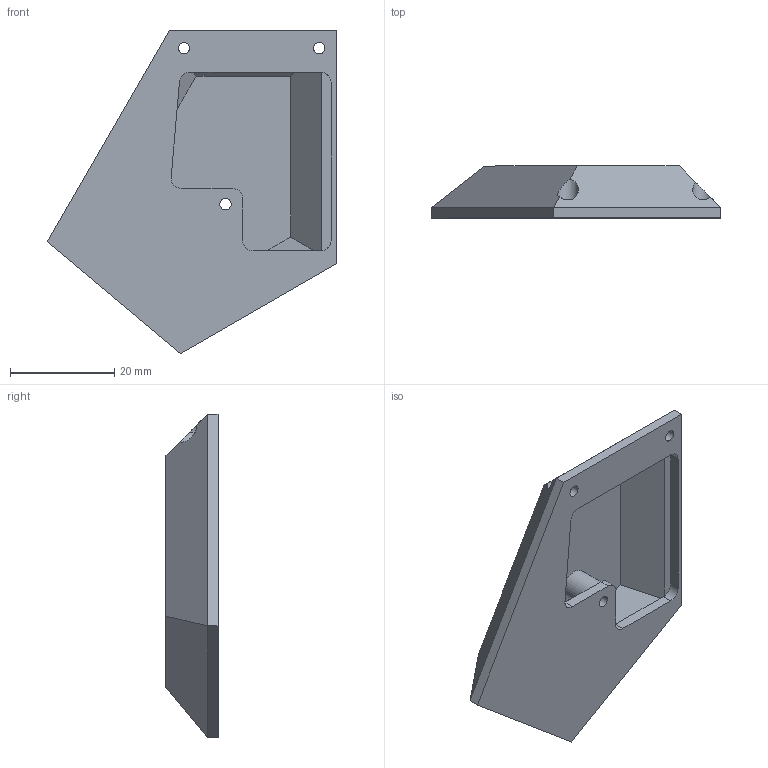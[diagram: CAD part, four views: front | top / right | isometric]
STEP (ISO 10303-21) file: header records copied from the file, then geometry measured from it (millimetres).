
FILE_DESCRIPTION((''),'2;1');
FILE_NAME('OP3_RIGHT_EAR_CASE_VER1','2017-07-24T',('kimdolyang'),(''),'PRO/ENGINEER BY PARAMETRIC TECHNOLOGY CORPORATION, 2013410','PRO/ENGINEER BY PARAMETRIC TECHNOLOGY CORPORATION, 2013410','');
FILE_SCHEMA(('CONFIG_CONTROL_DESIGN'));
Length unit declared in the file: millimetre
Products named in the file (1): OP3_RIGHT_EAR_CASE_VER1
Bounding box: 55.65 x 10 x 62.19 mm (x, y, z)
Volume: 8430.4 mm3; surface area: 8875.2 mm2
Topology: 1 solids, 1 shells, 51 faces, 138 edges, 90 vertices
Faces by surface type: plane 29, cylinder 22
Entity records: 1698 total; most frequent: CARTESIAN_POINT 346, ORIENTED_EDGE 276, DIRECTION 267, EDGE_CURVE 138, AXIS2_PLACEMENT_3D 92, VERTEX_POINT 90, VECTOR 83, LINE 83
